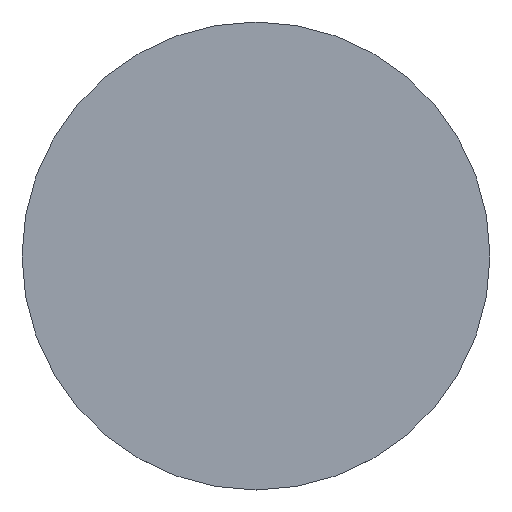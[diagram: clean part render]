
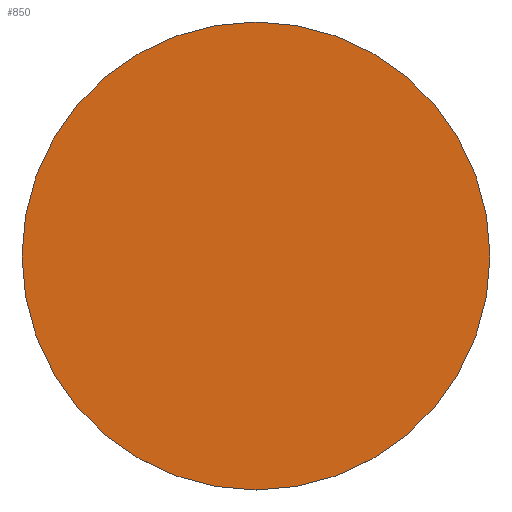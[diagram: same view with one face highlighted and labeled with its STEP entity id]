
A CAD part, top view. The second image highlights one B-rep face of the part: STEP entity #850.
In plain terms, the highlighted planar face has unit normal (0, 0, 1).
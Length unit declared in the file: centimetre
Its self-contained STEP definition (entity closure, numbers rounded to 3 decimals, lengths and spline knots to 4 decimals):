
#45=PLANE('',#957);
#90=FACE_OUTER_BOUND('',#153,.T.);
#153=EDGE_LOOP('',(#590));
#296=CIRCLE('',#956,15.);
#367=VERTEX_POINT('',#1423);
#449=EDGE_CURVE('',#367,#367,#296,.T.);
#590=ORIENTED_EDGE('',*,*,#449,.T.);
#850=ADVANCED_FACE('',(#90),#45,.T.);
#956=AXIS2_PLACEMENT_3D('',#1424,#1142,#1143);
#957=AXIS2_PLACEMENT_3D('',#1426,#1145,#1146);
#1142=DIRECTION('center_axis',(0.,0.,
1.));
#1143=DIRECTION('ref_axis',(0.,1.,0.));
#1145=DIRECTION('center_axis',(0.,0.,
1.));
#1146=DIRECTION('ref_axis',(0.,1.,0.));
#1423=CARTESIAN_POINT('',(0.,-15.,12.67));
#1424=CARTESIAN_POINT('Origin',(0.,0.,
12.67));
#1426=CARTESIAN_POINT('Origin',(0.,0.,
12.67));
